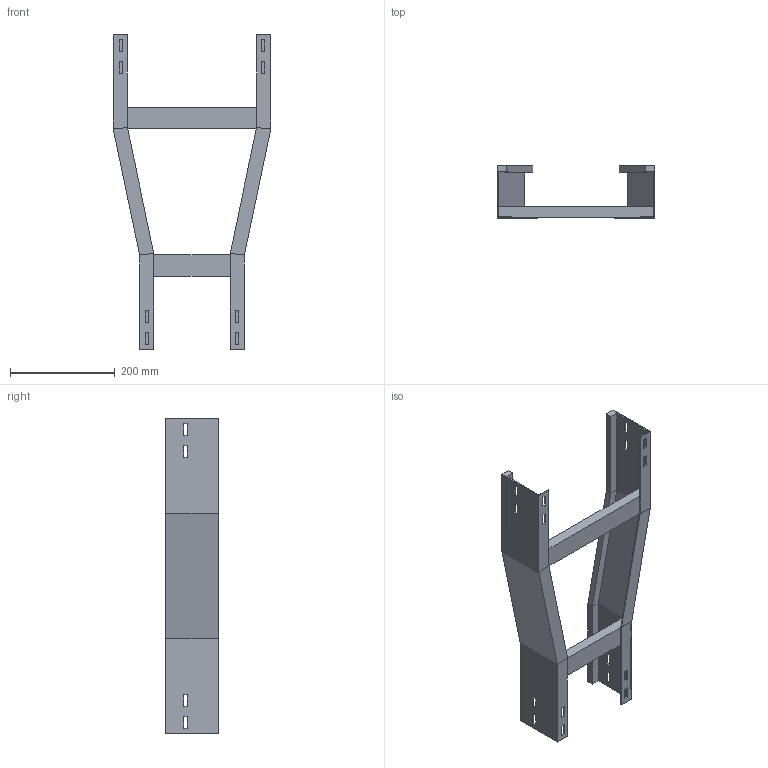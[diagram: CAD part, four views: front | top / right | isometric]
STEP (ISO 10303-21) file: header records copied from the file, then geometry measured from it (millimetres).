
FILE_DESCRIPTION (( 'STEP AP214' ), '1' );
FILE_NAME ('B2X20B2D300XX.step', '2025-09-02T17:13:56', ( '' ), ( '' ), 'SwSTEP 2.0', 'SolidWorks 2023', '' );
FILE_SCHEMA (( 'AUTOMOTIVE_DESIGN' ));
Length unit declared in the file: millimetre
Products named in the file (4): TRAVERSINO_200; SPONDA RID. CENTRALE 300-200_H100; TRAVERSINO_300; B2X20B2D300XX
Assembly tree (3 placements, depth 2):
  B2X20B2D300XX
    SPONDA RID. CENTRALE 300-200_H100
    TRAVERSINO_200
    TRAVERSINO_300
Bounding box: 300 x 100 x 600 mm (x, y, z)
Volume: 928547.3 mm3; surface area: 407615.5 mm2
Topology: 4 solids, 4 shells, 128 faces, 328 edges, 208 vertices
Faces by surface type: plane 128
Entity records: 3950 total; most frequent: CARTESIAN_POINT 670, ORIENTED_EDGE 656, DIRECTION 596, EDGE_CURVE 328, VECTOR 328, LINE 328, VERTEX_POINT 208, EDGE_LOOP 160
